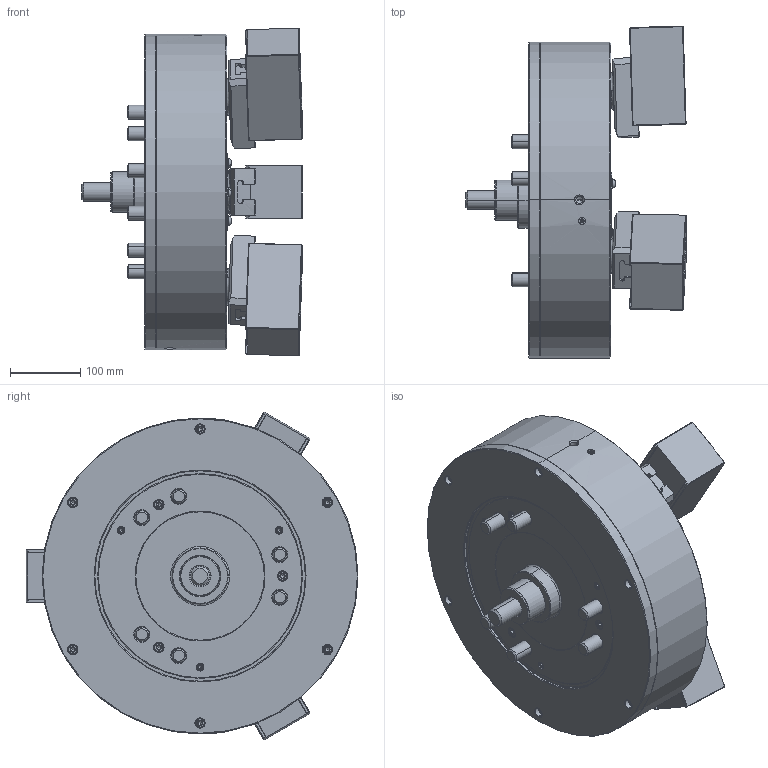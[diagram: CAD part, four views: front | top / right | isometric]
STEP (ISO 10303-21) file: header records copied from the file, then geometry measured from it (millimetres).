
FILE_DESCRIPTION (( 'STEP AP214' ), '1' );
FILE_NAME ('PW-18_OC_ID.STEP', '2024-02-07T07:08:43', ( '' ), ( '' ), 'SwSTEP 2.0', 'SolidWorks 2022', '' );
FILE_SCHEMA (( 'AUTOMOTIVE_DESIGN' ));
Length unit declared in the file: millimetre
Products named in the file (9): 0030127150; 61P422887; 0033108012; 0030120030; PW-18_結合_ID; PW-18_OC_ID; 61P326096; 0030120120; 61P422878
Assembly tree (24 placements, depth 2):
  PW-18_OC_ID
    61P422887
    0030120120  x6
    0030127150
    0033108012  x3
    61P326096  x3
    61P422878  x3
    0030120030  x6
    PW-18_結合_ID
Bounding box: 313.74 x 473.05 x 466.74 mm (x, y, z)
Volume: 21086383.2 mm3; surface area: 1028380.1 mm2
Topology: 24 solids, 27 shells, 3956 faces, 10330 edges, 6697 vertices
Faces by surface type: plane 1961, bspline 960, cone 554, cylinder 441, torus 32, sphere 8
Entity records: 144762 total; most frequent: CARTESIAN_POINT 62903, ORIENTED_EDGE 18740, DIRECTION 13223, EDGE_CURVE 9370, VERTEX_POINT 6137, LINE 5567, VECTOR 5567, EDGE_LOOP 3903
